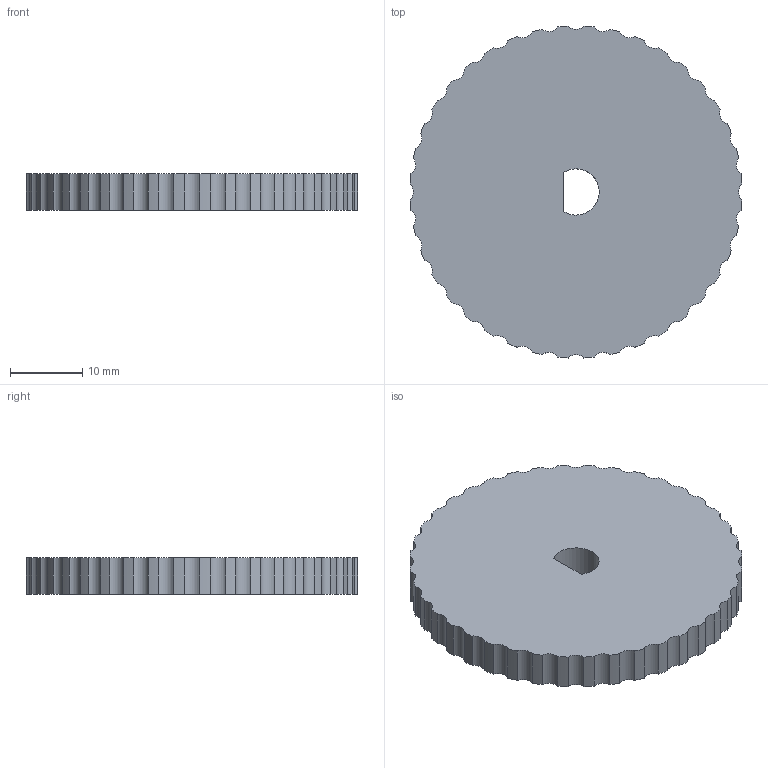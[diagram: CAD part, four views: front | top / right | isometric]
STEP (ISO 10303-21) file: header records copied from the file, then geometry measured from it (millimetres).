
FILE_DESCRIPTION(('FreeCAD Model'),'2;1');
FILE_NAME('E:/CAD Designs/Garmin/Final/CAD files/STEP/wheel.step', '2021-02-27T12:56:46',('Author'),(''), 'Open CASCADE STEP processor 7.3','FreeCAD','Unknown');
FILE_SCHEMA(('AUTOMOTIVE_DESIGN { 1 0 10303 214 1 1 1 1 }'));
Length unit declared in the file: millimetre
Products named in the file (1): Body
Bounding box: 45.95 x 45.95 x 5 mm (x, y, z)
Volume: 5668.1 mm3; surface area: 4762.8 mm2
Topology: 1 solids, 1 shells, 104 faces, 294 edges, 196 vertices
Faces by surface type: cylinder 89, plane 15
Entity records: 7371 total; most frequent: CARTESIAN_POINT 1279, DIRECTION 1254, ORIENTED_EDGE 588, PCURVE 588, DEFINITIONAL_REPRESENTATION 588, LINE 526, VECTOR 526, CIRCLE 340
